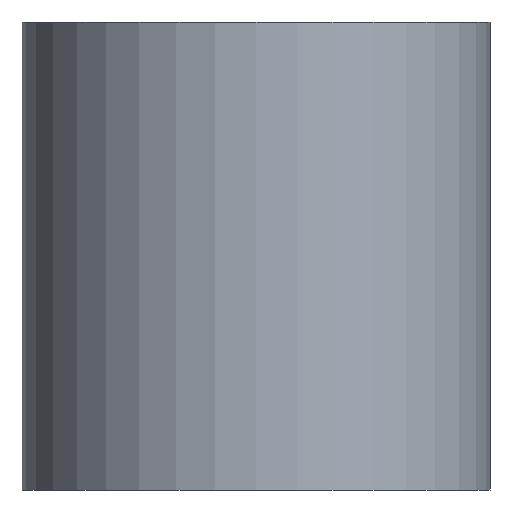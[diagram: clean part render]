
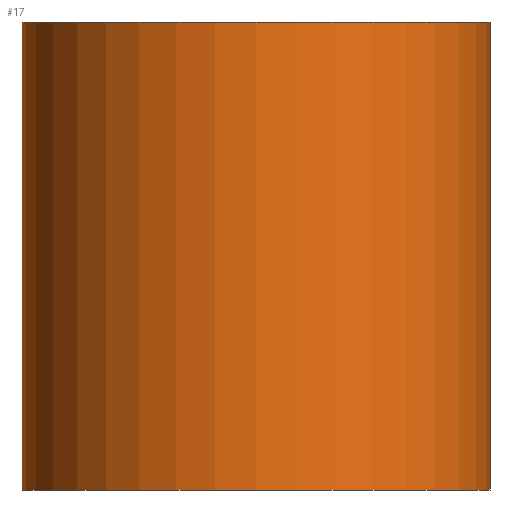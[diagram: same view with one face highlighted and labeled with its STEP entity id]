
A CAD part, front view. The second image highlights one B-rep face of the part: STEP entity #17.
In plain terms, the highlighted cylindrical face has radius 10 mm (diameter 20 mm), a full revolution.
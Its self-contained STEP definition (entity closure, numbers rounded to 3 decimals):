
#17 = ADVANCED_FACE('',(#18),#31,.T.);
#18 = FACE_BOUND('',#19,.F.);
#19 = EDGE_LOOP('',(#20,#54,#77,#106,#132,#161,#187));
#20 = ORIENTED_EDGE('',*,*,#21,.F.);
#21 = EDGE_CURVE('',#22,#22,#24,.T.);
#22 = VERTEX_POINT('',#23);
#23 = CARTESIAN_POINT('',(10.,0.,0.));
#24 = SURFACE_CURVE('',#25,(#30,#42),.PCURVE_S1.);
#25 = CIRCLE('',#26,10.);
#26 = AXIS2_PLACEMENT_3D('',#27,#28,#29);
#27 = CARTESIAN_POINT('',(0.,0.,0.));
#28 = DIRECTION('',(0.,0.,1.));
#29 = DIRECTION('',(1.,0.,0.));
#30 = PCURVE('',#31,#36);
#31 = CYLINDRICAL_SURFACE('',#32,10.);
#32 = AXIS2_PLACEMENT_3D('',#33,#34,#35);
#33 = CARTESIAN_POINT('',(0.,0.,0.));
#34 = DIRECTION('',(-0.,-0.,-1.));
#35 = DIRECTION('',(1.,0.,0.));
#36 = DEFINITIONAL_REPRESENTATION('',(#37),#41);
#37 = LINE('',#38,#39);
#38 = CARTESIAN_POINT('',(-0.,0.));
#39 = VECTOR('',#40,1.);
#40 = DIRECTION('',(-1.,0.));
#41 = ( GEOMETRIC_REPRESENTATION_CONTEXT(2) 
PARAMETRIC_REPRESENTATION_CONTEXT() REPRESENTATION_CONTEXT('2D SPACE',''
  ) );
#42 = PCURVE('',#43,#48);
#43 = PLANE('',#44);
#44 = AXIS2_PLACEMENT_3D('',#45,#46,#47);
#45 = CARTESIAN_POINT('',(0.,0.,0.));
#46 = DIRECTION('',(0.,0.,1.));
#47 = DIRECTION('',(1.,0.,-0.));
#48 = DEFINITIONAL_REPRESENTATION('',(#49),#53);
#49 = CIRCLE('',#50,10.);
#50 = AXIS2_PLACEMENT_2D('',#51,#52);
#51 = CARTESIAN_POINT('',(0.,0.));
#52 = DIRECTION('',(1.,0.));
#53 = ( GEOMETRIC_REPRESENTATION_CONTEXT(2) 
PARAMETRIC_REPRESENTATION_CONTEXT() REPRESENTATION_CONTEXT('2D SPACE',''
  ) );
#54 = ORIENTED_EDGE('',*,*,#55,.T.);
#55 = EDGE_CURVE('',#22,#56,#58,.T.);
#56 = VERTEX_POINT('',#57);
#57 = CARTESIAN_POINT('',(10.,0.,19.));
#58 = SEAM_CURVE('',#59,(#63,#70),.PCURVE_S1.);
#59 = LINE('',#60,#61);
#60 = CARTESIAN_POINT('',(10.,0.,0.));
#61 = VECTOR('',#62,1.);
#62 = DIRECTION('',(0.,0.,1.));
#63 = PCURVE('',#31,#64);
#64 = DEFINITIONAL_REPRESENTATION('',(#65),#69);
#65 = LINE('',#66,#67);
#66 = CARTESIAN_POINT('',(-6.283,0.));
#67 = VECTOR('',#68,1.);
#68 = DIRECTION('',(-0.,-1.));
#69 = ( GEOMETRIC_REPRESENTATION_CONTEXT(2) 
PARAMETRIC_REPRESENTATION_CONTEXT() REPRESENTATION_CONTEXT('2D SPACE',''
  ) );
#70 = PCURVE('',#31,#71);
#71 = DEFINITIONAL_REPRESENTATION('',(#72),#76);
#72 = LINE('',#73,#74);
#73 = CARTESIAN_POINT('',(-0.,0.));
#74 = VECTOR('',#75,1.);
#75 = DIRECTION('',(-0.,-1.));
#76 = ( GEOMETRIC_REPRESENTATION_CONTEXT(2) 
PARAMETRIC_REPRESENTATION_CONTEXT() REPRESENTATION_CONTEXT('2D SPACE',''
  ) );
#77 = ORIENTED_EDGE('',*,*,#78,.T.);
#78 = EDGE_CURVE('',#56,#79,#81,.T.);
#79 = VERTEX_POINT('',#80);
#80 = CARTESIAN_POINT('',(-10.,0.,19.));
#81 = SURFACE_CURVE('',#82,(#87,#94),.PCURVE_S1.);
#82 = CIRCLE('',#83,10.);
#83 = AXIS2_PLACEMENT_3D('',#84,#85,#86);
#84 = CARTESIAN_POINT('',(0.,0.,19.));
#85 = DIRECTION('',(0.,0.,1.));
#86 = DIRECTION('',(1.,0.,-0.));
#87 = PCURVE('',#31,#88);
#88 = DEFINITIONAL_REPRESENTATION('',(#89),#93);
#89 = LINE('',#90,#91);
#90 = CARTESIAN_POINT('',(-0.,-19.));
#91 = VECTOR('',#92,1.);
#92 = DIRECTION('',(-1.,0.));
#93 = ( GEOMETRIC_REPRESENTATION_CONTEXT(2) 
PARAMETRIC_REPRESENTATION_CONTEXT() REPRESENTATION_CONTEXT('2D SPACE',''
  ) );
#94 = PCURVE('',#95,#100);
#95 = CONICAL_SURFACE('',#96,10.,0.785);
#96 = AXIS2_PLACEMENT_3D('',#97,#98,#99);
#97 = CARTESIAN_POINT('',(0.,0.,19.));
#98 = DIRECTION('',(-0.,-0.,-1.));
#99 = DIRECTION('',(1.,0.,0.));
#100 = DEFINITIONAL_REPRESENTATION('',(#101),#105);
#101 = LINE('',#102,#103);
#102 = CARTESIAN_POINT('',(-0.,-0.));
#103 = VECTOR('',#104,1.);
#104 = DIRECTION('',(-1.,-0.));
#105 = ( GEOMETRIC_REPRESENTATION_CONTEXT(2) 
PARAMETRIC_REPRESENTATION_CONTEXT() REPRESENTATION_CONTEXT('2D SPACE',''
  ) );
#106 = ORIENTED_EDGE('',*,*,#107,.F.);
#107 = EDGE_CURVE('',#108,#79,#110,.T.);
#108 = VERTEX_POINT('',#109);
#109 = CARTESIAN_POINT('',(-10.,0.,20.));
#110 = SURFACE_CURVE('',#111,(#115,#121),.PCURVE_S1.);
#111 = LINE('',#112,#113);
#112 = CARTESIAN_POINT('',(-10.,0.,0.));
#113 = VECTOR('',#114,1.);
#114 = DIRECTION('',(-0.,-0.,-1.));
#115 = PCURVE('',#31,#116);
#116 = DEFINITIONAL_REPRESENTATION('',(#117),#120);
#117 = B_SPLINE_CURVE_WITH_KNOTS('',1,(#118,#119),.UNSPECIFIED.,.F.,.F.,
  (2,2),(-20.,-19.),.PIECEWISE_BEZIER_KNOTS.);
#118 = CARTESIAN_POINT('',(-3.142,-20.));
#119 = CARTESIAN_POINT('',(-3.142,-19.));
#120 = ( GEOMETRIC_REPRESENTATION_CONTEXT(2) 
PARAMETRIC_REPRESENTATION_CONTEXT() REPRESENTATION_CONTEXT('2D SPACE',''
  ) );
#121 = PCURVE('',#122,#127);
#122 = PLANE('',#123);
#123 = AXIS2_PLACEMENT_3D('',#124,#125,#126);
#124 = CARTESIAN_POINT('',(-20.,0.,0.));
#125 = DIRECTION('',(0.,1.,0.));
#126 = DIRECTION('',(0.,0.,1.));
#127 = DEFINITIONAL_REPRESENTATION('',(#128),#131);
#128 = B_SPLINE_CURVE_WITH_KNOTS('',1,(#129,#130),.UNSPECIFIED.,.F.,.F.,
  (2,2),(-20.,-19.),.PIECEWISE_BEZIER_KNOTS.);
#129 = CARTESIAN_POINT('',(20.,10.));
#130 = CARTESIAN_POINT('',(19.,10.));
#131 = ( GEOMETRIC_REPRESENTATION_CONTEXT(2) 
PARAMETRIC_REPRESENTATION_CONTEXT() REPRESENTATION_CONTEXT('2D SPACE',''
  ) );
#132 = ORIENTED_EDGE('',*,*,#133,.T.);
#133 = EDGE_CURVE('',#108,#134,#136,.T.);
#134 = VERTEX_POINT('',#135);
#135 = CARTESIAN_POINT('',(10.,0.,20.));
#136 = SURFACE_CURVE('',#137,(#142,#149),.PCURVE_S1.);
#137 = CIRCLE('',#138,10.);
#138 = AXIS2_PLACEMENT_3D('',#139,#140,#141);
#139 = CARTESIAN_POINT('',(0.,0.,20.));
#140 = DIRECTION('',(0.,0.,1.));
#141 = DIRECTION('',(1.,0.,0.));
#142 = PCURVE('',#31,#143);
#143 = DEFINITIONAL_REPRESENTATION('',(#144),#148);
#144 = LINE('',#145,#146);
#145 = CARTESIAN_POINT('',(-0.,-20.));
#146 = VECTOR('',#147,1.);
#147 = DIRECTION('',(-1.,0.));
#148 = ( GEOMETRIC_REPRESENTATION_CONTEXT(2) 
PARAMETRIC_REPRESENTATION_CONTEXT() REPRESENTATION_CONTEXT('2D SPACE',''
  ) );
#149 = PCURVE('',#150,#155);
#150 = PLANE('',#151);
#151 = AXIS2_PLACEMENT_3D('',#152,#153,#154);
#152 = CARTESIAN_POINT('',(0.,0.,20.));
#153 = DIRECTION('',(0.,0.,1.));
#154 = DIRECTION('',(1.,0.,-0.));
#155 = DEFINITIONAL_REPRESENTATION('',(#156),#160);
#156 = CIRCLE('',#157,10.);
#157 = AXIS2_PLACEMENT_2D('',#158,#159);
#158 = CARTESIAN_POINT('',(0.,0.));
#159 = DIRECTION('',(1.,0.));
#160 = ( GEOMETRIC_REPRESENTATION_CONTEXT(2) 
PARAMETRIC_REPRESENTATION_CONTEXT() REPRESENTATION_CONTEXT('2D SPACE',''
  ) );
#161 = ORIENTED_EDGE('',*,*,#162,.F.);
#162 = EDGE_CURVE('',#56,#134,#163,.T.);
#163 = SURFACE_CURVE('',#164,(#168,#175),.PCURVE_S1.);
#164 = LINE('',#165,#166);
#165 = CARTESIAN_POINT('',(10.,0.,0.));
#166 = VECTOR('',#167,1.);
#167 = DIRECTION('',(0.,0.,1.));
#168 = PCURVE('',#31,#169);
#169 = DEFINITIONAL_REPRESENTATION('',(#170),#174);
#170 = LINE('',#171,#172);
#171 = CARTESIAN_POINT('',(-6.283,0.));
#172 = VECTOR('',#173,1.);
#173 = DIRECTION('',(-0.,-1.));
#174 = ( GEOMETRIC_REPRESENTATION_CONTEXT(2) 
PARAMETRIC_REPRESENTATION_CONTEXT() REPRESENTATION_CONTEXT('2D SPACE',''
  ) );
#175 = PCURVE('',#176,#181);
#176 = PLANE('',#177);
#177 = AXIS2_PLACEMENT_3D('',#178,#179,#180);
#178 = CARTESIAN_POINT('',(-20.,0.,0.));
#179 = DIRECTION('',(0.,1.,0.));
#180 = DIRECTION('',(0.,0.,1.));
#181 = DEFINITIONAL_REPRESENTATION('',(#182),#186);
#182 = LINE('',#183,#184);
#183 = CARTESIAN_POINT('',(0.,30.));
#184 = VECTOR('',#185,1.);
#185 = DIRECTION('',(1.,0.));
#186 = ( GEOMETRIC_REPRESENTATION_CONTEXT(2) 
PARAMETRIC_REPRESENTATION_CONTEXT() REPRESENTATION_CONTEXT('2D SPACE',''
  ) );
#187 = ORIENTED_EDGE('',*,*,#55,.F.);
